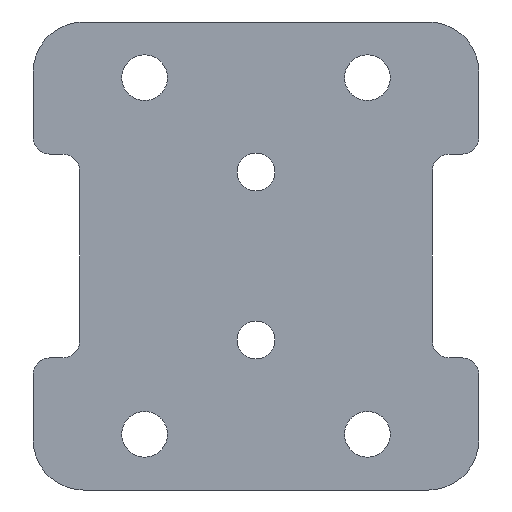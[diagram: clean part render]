
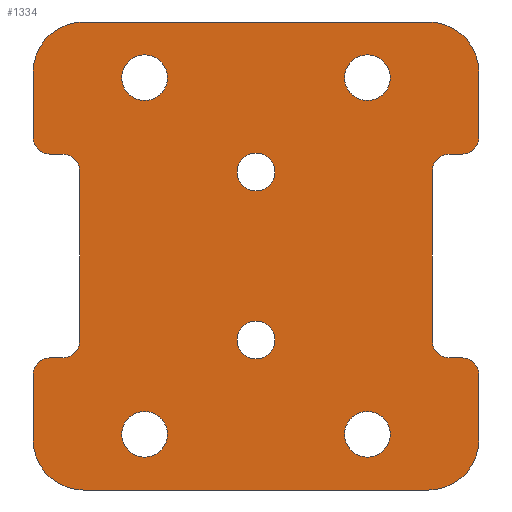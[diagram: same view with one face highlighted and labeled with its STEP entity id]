
A CAD part, front view. The second image highlights one B-rep face of the part: STEP entity #1334.
In plain terms, the highlighted planar face has unit normal (0, -1, 0).
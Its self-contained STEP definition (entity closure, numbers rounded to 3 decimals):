
#47=FACE_BOUND('',#215,.T.);
#48=FACE_BOUND('',#216,.T.);
#49=FACE_BOUND('',#217,.T.);
#50=FACE_BOUND('',#218,.T.);
#51=FACE_BOUND('',#219,.T.);
#52=FACE_BOUND('',#220,.T.);
#78=PLANE('',#1468);
#128=FACE_OUTER_BOUND('',#214,.T.);
#214=EDGE_LOOP('',(#1067,#1068,#1069,#1070,#1071,#1072,#1073,#1074,#1075,
#1076,#1077,#1078,#1079,#1080,#1081,#1082,#1083,#1084,#1085,#1086,#1087,
#1088,#1089,#1090));
#215=EDGE_LOOP('',(#1091));
#216=EDGE_LOOP('',(#1092));
#217=EDGE_LOOP('',(#1093));
#218=EDGE_LOOP('',(#1094));
#219=EDGE_LOOP('',(#1095));
#220=EDGE_LOOP('',(#1096));
#286=CIRCLE('',#1418,3.);
#305=CIRCLE('',#1453,3.);
#311=CIRCLE('',#1469,3.);
#312=CIRCLE('',#1470,3.);
#313=CIRCLE('',#1471,3.);
#314=CIRCLE('',#1472,9.);
#315=CIRCLE('',#1473,9.);
#316=CIRCLE('',#1474,3.);
#317=CIRCLE('',#1475,3.);
#318=CIRCLE('',#1476,3.);
#319=CIRCLE('',#1477,9.);
#320=CIRCLE('',#1478,9.);
#321=CIRCLE('',#1479,3.39);
#322=CIRCLE('',#1480,3.39);
#323=CIRCLE('',#1481,4.1);
#324=CIRCLE('',#1482,4.1);
#325=CIRCLE('',#1483,4.1);
#326=CIRCLE('',#1484,4.1);
#384=LINE('',#2127,#506);
#409=LINE('',#2194,#531);
#411=LINE('',#2198,#533);
#413=LINE('',#2202,#535);
#414=LINE('',#2207,#536);
#415=LINE('',#2211,#537);
#416=LINE('',#2215,#538);
#417=LINE('',#2218,#539);
#418=LINE('',#2220,#540);
#419=LINE('',#2225,#541);
#420=LINE('',#2229,#542);
#421=LINE('',#2233,#543);
#506=VECTOR('',#1686,10.);
#531=VECTOR('',#1755,10.);
#533=VECTOR('',#1759,10.);
#535=VECTOR('',#1763,10.);
#536=VECTOR('',#1768,10.);
#537=VECTOR('',#1771,10.);
#538=VECTOR('',#1774,10.);
#539=VECTOR('',#1777,10.);
#540=VECTOR('',#1778,10.);
#541=VECTOR('',#1783,10.);
#542=VECTOR('',#1786,10.);
#543=VECTOR('',#1789,10.);
#611=VERTEX_POINT('',#2040);
#612=VERTEX_POINT('',#2042);
#645=VERTEX_POINT('',#2124);
#646=VERTEX_POINT('',#2126);
#652=VERTEX_POINT('',#2150);
#653=VERTEX_POINT('',#2152);
#665=VERTEX_POINT('',#2191);
#666=VERTEX_POINT('',#2193);
#667=VERTEX_POINT('',#2197);
#668=VERTEX_POINT('',#2201);
#669=VERTEX_POINT('',#2204);
#670=VERTEX_POINT('',#2206);
#671=VERTEX_POINT('',#2208);
#672=VERTEX_POINT('',#2210);
#673=VERTEX_POINT('',#2212);
#674=VERTEX_POINT('',#2214);
#675=VERTEX_POINT('',#2216);
#676=VERTEX_POINT('',#2219);
#677=VERTEX_POINT('',#2222);
#678=VERTEX_POINT('',#2224);
#679=VERTEX_POINT('',#2226);
#680=VERTEX_POINT('',#2228);
#681=VERTEX_POINT('',#2230);
#682=VERTEX_POINT('',#2232);
#683=VERTEX_POINT('',#2235);
#684=VERTEX_POINT('',#2237);
#685=VERTEX_POINT('',#2239);
#686=VERTEX_POINT('',#2241);
#687=VERTEX_POINT('',#2243);
#688=VERTEX_POINT('',#2245);
#737=EDGE_CURVE('',#611,#612,#286,.T.);
#779=EDGE_CURVE('',#646,#645,#384,.T.);
#792=EDGE_CURVE('',#652,#653,#305,.T.);
#813=EDGE_CURVE('',#666,#665,#409,.T.);
#815=EDGE_CURVE('',#667,#612,#411,.T.);
#817=EDGE_CURVE('',#611,#668,#413,.T.);
#818=EDGE_CURVE('',#646,#668,#311,.T.);
#819=EDGE_CURVE('',#669,#645,#312,.T.);
#820=EDGE_CURVE('',#669,#670,#414,.T.);
#821=EDGE_CURVE('',#671,#670,#313,.T.);
#822=EDGE_CURVE('',#671,#672,#415,.T.);
#823=EDGE_CURVE('',#673,#672,#314,.T.);
#824=EDGE_CURVE('',#673,#674,#416,.T.);
#825=EDGE_CURVE('',#675,#674,#315,.T.);
#826=EDGE_CURVE('',#675,#653,#417,.T.);
#827=EDGE_CURVE('',#652,#676,#418,.T.);
#828=EDGE_CURVE('',#666,#676,#316,.T.);
#829=EDGE_CURVE('',#677,#665,#317,.T.);
#830=EDGE_CURVE('',#677,#678,#419,.T.);
#831=EDGE_CURVE('',#679,#678,#318,.T.);
#832=EDGE_CURVE('',#679,#680,#420,.T.);
#833=EDGE_CURVE('',#681,#680,#319,.T.);
#834=EDGE_CURVE('',#681,#682,#421,.T.);
#835=EDGE_CURVE('',#667,#682,#320,.T.);
#836=EDGE_CURVE('',#683,#683,#321,.F.);
#837=EDGE_CURVE('',#684,#684,#322,.F.);
#838=EDGE_CURVE('',#685,#685,#323,.T.);
#839=EDGE_CURVE('',#686,#686,#324,.T.);
#840=EDGE_CURVE('',#687,#687,#325,.T.);
#841=EDGE_CURVE('',#688,#688,#326,.T.);
#1067=ORIENTED_EDGE('',*,*,#737,.F.);
#1068=ORIENTED_EDGE('',*,*,#817,.T.);
#1069=ORIENTED_EDGE('',*,*,#818,.F.);
#1070=ORIENTED_EDGE('',*,*,#779,.T.);
#1071=ORIENTED_EDGE('',*,*,#819,.F.);
#1072=ORIENTED_EDGE('',*,*,#820,.T.);
#1073=ORIENTED_EDGE('',*,*,#821,.F.);
#1074=ORIENTED_EDGE('',*,*,#822,.T.);
#1075=ORIENTED_EDGE('',*,*,#823,.F.);
#1076=ORIENTED_EDGE('',*,*,#824,.T.);
#1077=ORIENTED_EDGE('',*,*,#825,.F.);
#1078=ORIENTED_EDGE('',*,*,#826,.T.);
#1079=ORIENTED_EDGE('',*,*,#792,.F.);
#1080=ORIENTED_EDGE('',*,*,#827,.T.);
#1081=ORIENTED_EDGE('',*,*,#828,.F.);
#1082=ORIENTED_EDGE('',*,*,#813,.T.);
#1083=ORIENTED_EDGE('',*,*,#829,.F.);
#1084=ORIENTED_EDGE('',*,*,#830,.T.);
#1085=ORIENTED_EDGE('',*,*,#831,.F.);
#1086=ORIENTED_EDGE('',*,*,#832,.T.);
#1087=ORIENTED_EDGE('',*,*,#833,.F.);
#1088=ORIENTED_EDGE('',*,*,#834,.T.);
#1089=ORIENTED_EDGE('',*,*,#835,.F.);
#1090=ORIENTED_EDGE('',*,*,#815,.T.);
#1091=ORIENTED_EDGE('',*,*,#836,.T.);
#1092=ORIENTED_EDGE('',*,*,#837,.T.);
#1093=ORIENTED_EDGE('',*,*,#838,.T.);
#1094=ORIENTED_EDGE('',*,*,#839,.T.);
#1095=ORIENTED_EDGE('',*,*,#840,.T.);
#1096=ORIENTED_EDGE('',*,*,#841,.T.);
#1334=ADVANCED_FACE('',(#128,#47,#48,#49,#50,#51,#52),#78,.F.);
#1418=AXIS2_PLACEMENT_3D('',#2043,#1609,#1610);
#1453=AXIS2_PLACEMENT_3D('',#2153,#1713,#1714);
#1468=AXIS2_PLACEMENT_3D('',#2200,#1761,#1762);
#1469=AXIS2_PLACEMENT_3D('',#2203,#1764,#1765);
#1470=AXIS2_PLACEMENT_3D('',#2205,#1766,#1767);
#1471=AXIS2_PLACEMENT_3D('',#2209,#1769,#1770);
#1472=AXIS2_PLACEMENT_3D('',#2213,#1772,#1773);
#1473=AXIS2_PLACEMENT_3D('',#2217,#1775,#1776);
#1474=AXIS2_PLACEMENT_3D('',#2221,#1779,#1780);
#1475=AXIS2_PLACEMENT_3D('',#2223,#1781,#1782);
#1476=AXIS2_PLACEMENT_3D('',#2227,#1784,#1785);
#1477=AXIS2_PLACEMENT_3D('',#2231,#1787,#1788);
#1478=AXIS2_PLACEMENT_3D('',#2234,#1790,#1791);
#1479=AXIS2_PLACEMENT_3D('',#2236,#1792,#1793);
#1480=AXIS2_PLACEMENT_3D('',#2238,#1794,#1795);
#1481=AXIS2_PLACEMENT_3D('',#2240,#1796,#1797);
#1482=AXIS2_PLACEMENT_3D('',#2242,#1798,#1799);
#1483=AXIS2_PLACEMENT_3D('',#2244,#1800,#1801);
#1484=AXIS2_PLACEMENT_3D('',#2246,#1802,#1803);
#1609=DIRECTION('center_axis',(0.,1.,0.));
#1610=DIRECTION('ref_axis',(0.707,0.,0.707));
#1686=DIRECTION('',(0.,0.,1.));
#1713=DIRECTION('center_axis',(0.,1.,0.));
#1714=DIRECTION('ref_axis',(-0.707,0.,-0.707));
#1755=DIRECTION('',(0.,0.,-1.));
#1759=DIRECTION('',(0.,0.,1.));
#1761=DIRECTION('center_axis',(0.,1.,0.));
#1762=DIRECTION('ref_axis',(1.,0.,0.));
#1763=DIRECTION('',(-1.,0.,0.));
#1764=DIRECTION('center_axis',(0.,-1.,0.));
#1765=DIRECTION('ref_axis',(-0.707,0.,-0.707));
#1766=DIRECTION('center_axis',(0.,-1.,0.));
#1767=DIRECTION('ref_axis',(-0.707,0.,0.707));
#1768=DIRECTION('',(1.,0.,0.));
#1769=DIRECTION('center_axis',(0.,1.,0.));
#1770=DIRECTION('ref_axis',(0.707,0.,-0.707));
#1771=DIRECTION('',(0.,0.,1.));
#1772=DIRECTION('center_axis',(0.,1.,0.));
#1773=DIRECTION('ref_axis',(0.707,0.,0.707));
#1774=DIRECTION('',(-1.,0.,0.));
#1775=DIRECTION('center_axis',(0.,1.,0.));
#1776=DIRECTION('ref_axis',(-0.707,0.,0.707));
#1777=DIRECTION('',(0.,0.,-1.));
#1778=DIRECTION('',(1.,0.,0.));
#1779=DIRECTION('center_axis',(0.,-1.,0.));
#1780=DIRECTION('ref_axis',(0.707,0.,0.707));
#1781=DIRECTION('center_axis',(0.,-1.,0.));
#1782=DIRECTION('ref_axis',(0.707,0.,-0.707));
#1783=DIRECTION('',(-1.,0.,0.));
#1784=DIRECTION('center_axis',(0.,1.,0.));
#1785=DIRECTION('ref_axis',(-0.707,0.,0.707));
#1786=DIRECTION('',(0.,0.,-1.));
#1787=DIRECTION('center_axis',(0.,1.,0.));
#1788=DIRECTION('ref_axis',(-0.707,0.,-0.707));
#1789=DIRECTION('',(1.,0.,0.));
#1790=DIRECTION('center_axis',(0.,1.,0.));
#1791=DIRECTION('ref_axis',(0.707,0.,-0.707));
#1792=DIRECTION('center_axis',(0.,-1.,0.));
#1793=DIRECTION('ref_axis',(0.,0.,1.));
#1794=DIRECTION('center_axis',(0.,-1.,0.));
#1795=DIRECTION('ref_axis',(0.,0.,1.));
#1796=DIRECTION('center_axis',(0.,1.,0.));
#1797=DIRECTION('ref_axis',(1.,0.,0.));
#1798=DIRECTION('center_axis',(0.,1.,0.));
#1799=DIRECTION('ref_axis',(1.,0.,0.));
#1800=DIRECTION('center_axis',(0.,1.,0.));
#1801=DIRECTION('ref_axis',(1.,0.,0.));
#1802=DIRECTION('center_axis',(0.,1.,0.));
#1803=DIRECTION('ref_axis',(1.,0.,0.));
#2040=CARTESIAN_POINT('',(77.,-16.,23.713));
#2042=CARTESIAN_POINT('',(80.,-16.,20.713));
#2043=CARTESIAN_POINT('Origin',(77.,-16.,20.713));
#2124=CARTESIAN_POINT('',(71.65,-16.,57.288));
#2126=CARTESIAN_POINT('',(71.65,-16.,26.713));
#2127=CARTESIAN_POINT('',(71.65,-16.,51.144));
#2150=CARTESIAN_POINT('',(3.,-16.,60.288));
#2152=CARTESIAN_POINT('',(0.,-16.,63.288));
#2153=CARTESIAN_POINT('Origin',(3.,-16.,63.288));
#2191=CARTESIAN_POINT('',(8.35,-16.,26.713));
#2193=CARTESIAN_POINT('',(8.35,-16.,57.288));
#2194=CARTESIAN_POINT('',(8.35,-16.,32.856));
#2197=CARTESIAN_POINT('',(80.,-16.,9.));
#2198=CARTESIAN_POINT('',(80.,-16.,0.));
#2200=CARTESIAN_POINT('Origin',(40.,-16.,42.));
#2201=CARTESIAN_POINT('',(74.65,-16.,23.713));
#2202=CARTESIAN_POINT('',(55.825,-16.,23.713));
#2203=CARTESIAN_POINT('Origin',(74.65,-16.,26.713));
#2204=CARTESIAN_POINT('',(74.65,-16.,60.288));
#2205=CARTESIAN_POINT('Origin',(74.65,-16.,57.288));
#2206=CARTESIAN_POINT('',(77.,-16.,60.288));
#2207=CARTESIAN_POINT('',(60.,-16.,60.288));
#2208=CARTESIAN_POINT('',(80.,-16.,63.288));
#2209=CARTESIAN_POINT('Origin',(77.,-16.,63.288));
#2210=CARTESIAN_POINT('',(80.,-16.,75.));
#2211=CARTESIAN_POINT('',(80.,-16.,0.));
#2212=CARTESIAN_POINT('',(71.,-16.,84.));
#2213=CARTESIAN_POINT('Origin',(71.,-16.,75.));
#2214=CARTESIAN_POINT('',(9.,-16.,84.));
#2215=CARTESIAN_POINT('',(80.,-16.,84.));
#2216=CARTESIAN_POINT('',(0.,-16.,75.));
#2217=CARTESIAN_POINT('Origin',(9.,-16.,75.));
#2218=CARTESIAN_POINT('',(0.,-16.,84.));
#2219=CARTESIAN_POINT('',(5.35,-16.,60.288));
#2220=CARTESIAN_POINT('',(24.175,-16.,60.288));
#2221=CARTESIAN_POINT('Origin',(5.35,-16.,57.288));
#2222=CARTESIAN_POINT('',(5.35,-16.,23.713));
#2223=CARTESIAN_POINT('Origin',(5.35,-16.,26.713));
#2224=CARTESIAN_POINT('',(3.,-16.,23.713));
#2225=CARTESIAN_POINT('',(20.,-16.,23.713));
#2226=CARTESIAN_POINT('',(0.,-16.,20.713));
#2227=CARTESIAN_POINT('Origin',(3.,-16.,20.713));
#2228=CARTESIAN_POINT('',(0.,-16.,9.));
#2229=CARTESIAN_POINT('',(0.,-16.,84.));
#2230=CARTESIAN_POINT('',(9.,-16.,0.));
#2231=CARTESIAN_POINT('Origin',(9.,-16.,9.));
#2232=CARTESIAN_POINT('',(71.,-16.,0.));
#2233=CARTESIAN_POINT('',(0.,-16.,0.));
#2234=CARTESIAN_POINT('Origin',(71.,-16.,9.));
#2235=CARTESIAN_POINT('',(40.,-16.,23.53));
#2236=CARTESIAN_POINT('Origin',(40.,-16.,26.92));
#2237=CARTESIAN_POINT('',(40.,-16.,53.691));
#2238=CARTESIAN_POINT('Origin',(40.,-16.,57.08));
#2239=CARTESIAN_POINT('',(55.9,-16.,74.));
#2240=CARTESIAN_POINT('Origin',(60.,-16.,74.));
#2241=CARTESIAN_POINT('',(15.9,-16.,10.));
#2242=CARTESIAN_POINT('Origin',(20.,-16.,10.));
#2243=CARTESIAN_POINT('',(55.9,-16.,10.));
#2244=CARTESIAN_POINT('Origin',(60.,-16.,10.));
#2245=CARTESIAN_POINT('',(15.9,-16.,74.));
#2246=CARTESIAN_POINT('Origin',(20.,-16.,74.));
